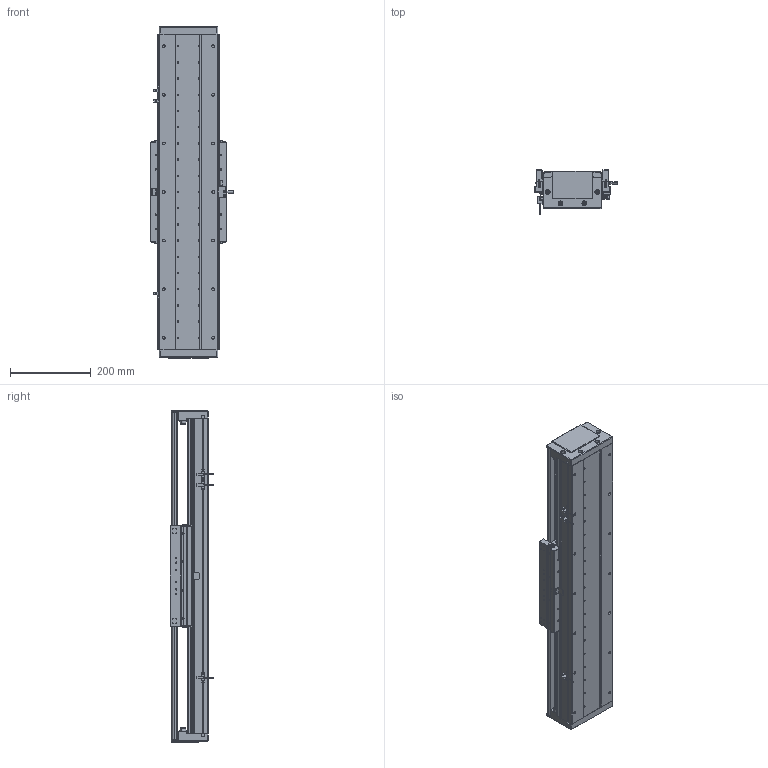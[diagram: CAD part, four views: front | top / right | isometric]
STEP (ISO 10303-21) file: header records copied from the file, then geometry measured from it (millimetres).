
FILE_DESCRIPTION (( 'STEP AP203' ), '1' );
FILE_NAME ('DA-C145-C3-T480-C010-0.2 眻盄萇儂.STEP', '2025-08-14T01:17:30', ( '' ), ( '' ), 'SwSTEP 2.0', 'SolidWorks 2019', '' );
FILE_SCHEMA (( 'CONFIG_CONTROL_DESIGN' ));
Length unit declared in the file: millimetre
Products named in the file (29): 葩璃 DA145-T-003-00 裔啣^DA-C145-C3-T-C010-0.2; 复件 DA145-GYP-00 光电感应片^DA-C145-C3-T-C010-0.2; 复件 DA95-HK-GT-00 滑块钢轨^CU145-W-00 一体化滑动台板; 葩璃 CKM03-W060-C1C2-TP-0.2^DA-C145-C3-T-C010-0.2; 复件 内六角平端紧定螺钉 GB.T77-2000 M5×10^CU145-W 滚珠滑台; TAY01-M8; 复件 纯铜油杯 6x6mm^CU145-W 滚珠滑台; 葩璃 DA145-DG-H-N-00 傷裔^DA-C145-C3-T-C010-0.2; 葩璃 DA145-C3-DP-A-00 菜えA^CU145-W 幗紩賑怢; 复件 DA145-C3-YB-A-00 压板A^CU145-W 滚珠滑台; 葩璃 CKMA01-W060-TRL^DA-C145-C3-T-C010-0.2; 复件 DA95-MFP-01 密封片^CU145-W 滚珠滑台; CU145-W-00 珨极趙賑雄怢啣; 葩璃 DA145-C3-DP-B-00 菜えB^CU145-W 幗紩賑怢; 葩璃 XD-U-02L 棠掑喜^DA-C145-C3-T-C010-0.2; 复件 DA95-DB-00  挡板^CU145-W 滚珠滑台; 葩璃 DA95-GT-T-00^IU-CU145-L 菁釱絳寢; 葩璃 PM-T45^DA-C145-C3-T-C010-0.2; 复件 DA145-C3-DK-00 挡块^CU145-W 滚珠滑台; 66245-CU145-HT-W-00 賑雄怢啣(3D芞祧)(00); 复件 DA145-C3-YB-B-00 压板B^CU145-W 滚珠滑台; DA-C145-C3-T480-C010-0.2 眻盄萇儂; 复件 半圆头内六角螺钉 M3×6^CU145-W 滚珠滑台; IU-CU145-L 菁釱絳寢; 葩璃 鞠褒情蹟譫 M3^DA-C145-C3-T-C010-0.2; 葩璃 DMA-010-0.2 黍杅芛^DA-C145-C3-T-C010-0.2; 葩璃 DA95-HXJ-00 遣喳砎蝶^DA-C145-C3-T-C010-0.2; CU145-W 幗紩賑怢; IU-CU145-L-00 菁釱(L780)
Assembly tree (98 placements, depth 4):
  DA-C145-C3-T480-C010-0.2 眻盄萇儂
    IU-CU145-L 菁釱絳寢
      IU-CU145-L-00 菁釱(L780)
      葩璃 DA95-GT-T-00^IU-CU145-L 菁釱絳寢  x4
    CU145-W 幗紩賑怢
      CU145-W-00 珨极趙賑雄怢啣
        66245-CU145-HT-W-00 賑雄怢啣(3D芞祧)(00)
        复件 DA95-HK-GT-00 滑块钢轨^CU145-W-00 一体化滑动台板  x8
      复件 DA95-MFP-01 密封片^CU145-W 滚珠滑台  x8
      复件 DA95-DB-00  挡板^CU145-W 滚珠滑台  x8
      复件 内六角平端紧定螺钉 GB.T77-2000 M5×10^CU145-W 滚珠滑台  x4
      复件 纯铜油杯 6x6mm^CU145-W 滚珠滑台  x4
      复件 半圆头内六角螺钉 M3×6^CU145-W 滚珠滑台  x16
      复件 DA145-C3-DK-00 挡块^CU145-W 滚珠滑台  x4
      葩璃 DA145-C3-DP-B-00 菜えB^CU145-W 幗紩賑怢  x2
      复件 DA145-C3-YB-B-00 压板B^CU145-W 滚珠滑台  x2
      葩璃 DA145-C3-DP-A-00 菜えA^CU145-W 幗紩賑怢  x3
      复件 DA145-C3-YB-A-00 压板A^CU145-W 滚珠滑台  x3
      TAY01-M8  x4
    葩璃 CKMA01-W060-TRL^DA-C145-C3-T-C010-0.2
    葩璃 PM-T45^DA-C145-C3-T-C010-0.2  x3
    葩璃 XD-U-02L 棠掑喜^DA-C145-C3-T-C010-0.2
    葩璃 DA145-DG-H-N-00 傷裔^DA-C145-C3-T-C010-0.2  x2
    葩璃 DA145-T-003-00 裔啣^DA-C145-C3-T-C010-0.2
    葩璃 DA95-HXJ-00 遣喳砎蝶^DA-C145-C3-T-C010-0.2  x4
    复件 DA145-GYP-00 光电感应片^DA-C145-C3-T-C010-0.2
    葩璃 DMA-010-0.2 黍杅芛^DA-C145-C3-T-C010-0.2
    葩璃 CKM03-W060-C1C2-TP-0.2^DA-C145-C3-T-C010-0.2
    葩璃 鞠褒情蹟譫 M3^DA-C145-C3-T-C010-0.2  x8
Bounding box: 203.5 x 108.45 x 820 mm (x, y, z)
Volume: 5915429.4 mm3; surface area: 1672613.5 mm2
Topology: 95 solids, 127 shells, 3863 faces, 10137 edges, 6236 vertices
Faces by surface type: cylinder 1576, plane 1571, cone 626, torus 86, sphere 4
Entity records: 85287 total; most frequent: CARTESIAN_POINT 20478, DIRECTION 12711, ORIENTED_EDGE 12272, EDGE_CURVE 6136, AXIS2_PLACEMENT_3D 4718, VERTEX_POINT 3925, VECTOR 3275, LINE 3275
